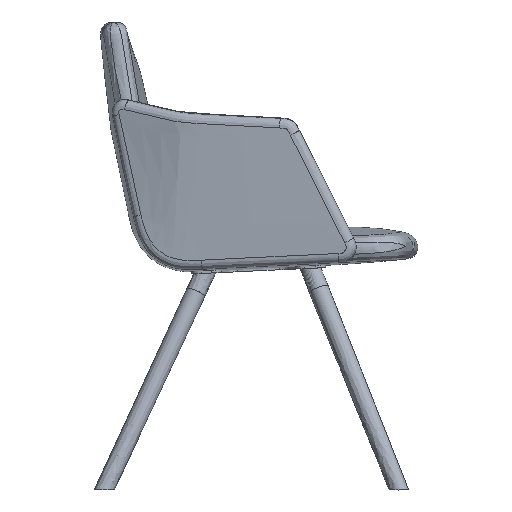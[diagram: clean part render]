
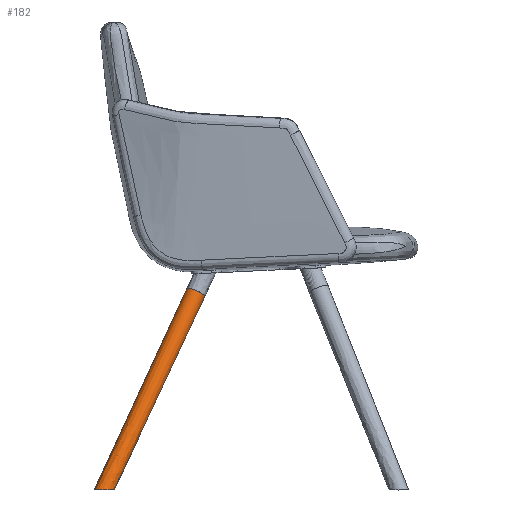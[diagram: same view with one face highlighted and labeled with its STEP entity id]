
A CAD part, left-side view. The second image highlights one B-rep face of the part: STEP entity #182.
In plain terms, the highlighted free-form (B-spline) face has degree [3, 2] with [4, 7] control points.
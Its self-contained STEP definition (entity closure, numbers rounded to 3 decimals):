
#182=ADVANCED_FACE('',(#311),#2028,.T.);
#311=FACE_OUTER_BOUND('',#440,.T.);
#440=EDGE_LOOP('',(#742,#743,#744,#745));
#742=ORIENTED_EDGE('',*,*,#1221,.F.);
#743=ORIENTED_EDGE('',*,*,#1223,.T.);
#744=ORIENTED_EDGE('',*,*,#1222,.T.);
#745=ORIENTED_EDGE('',*,*,#1224,.F.);
#1221=EDGE_CURVE('',#1852,#1853,#1452,.T.);
#1222=EDGE_CURVE('',#1851,#1854,#1765,.T.);
#1223=EDGE_CURVE('',#1852,#1851,#1766,.T.);
#1224=EDGE_CURVE('',#1853,#1854,#1767,.T.);
#1452=B_SPLINE_CURVE_WITH_KNOTS('',3,(#3090,#3091,#3092,#3093,#3094,#3095,
#3096,#3097,#3098,#3099,#3100,#3101,#3102,#3103,#3104,#3105,#3106,#3107,
#3108,#3109),.UNSPECIFIED.,.F.,.F.,(4,3,2,2,2,3,2,2,4),(0.,9.789,
16.811,23.816,30.782,37.748,50.996,
57.62,64.24),.UNSPECIFIED.);
#1765=(
BOUNDED_CURVE()
B_SPLINE_CURVE(2,(#3110,#3111,#3112,#3113,#3114,#3115,#3116),
 .UNSPECIFIED.,.F.,.F.)
B_SPLINE_CURVE_WITH_KNOTS((3,2,2,3),(0.,10.536,38.025,
65.514),.UNSPECIFIED.)
CURVE()
GEOMETRIC_REPRESENTATION_ITEM()
RATIONAL_B_SPLINE_CURVE((1.,0.956,1.,0.707,1.,0.707,
1.))
REPRESENTATION_ITEM('')
);
#1766=(
BOUNDED_CURVE()
B_SPLINE_CURVE(3,(#3117,#3118,#3119,#3120),.UNSPECIFIED.,.F.,.F.)
B_SPLINE_CURVE_WITH_KNOTS((4,4),(28.477,418.11),
 .UNSPECIFIED.)
CURVE()
GEOMETRIC_REPRESENTATION_ITEM()
RATIONAL_B_SPLINE_CURVE((1.,1.,1.,1.))
REPRESENTATION_ITEM('')
);
#1767=(
BOUNDED_CURVE()
B_SPLINE_CURVE(3,(#3121,#3122,#3123,#3124),.UNSPECIFIED.,.F.,.F.)
B_SPLINE_CURVE_WITH_KNOTS((4,4),(12.341,418.11),
 .UNSPECIFIED.)
CURVE()
GEOMETRIC_REPRESENTATION_ITEM()
RATIONAL_B_SPLINE_CURVE((1.,1.,1.,1.))
REPRESENTATION_ITEM('')
);
#1851=VERTEX_POINT('',#3086);
#1852=VERTEX_POINT('',#3087);
#1853=VERTEX_POINT('',#3088);
#1854=VERTEX_POINT('',#3089);
#2028=(
BOUNDED_SURFACE()
B_SPLINE_SURFACE(3,2,((#3058,#3059,#3060,#3061,#3062,#3063,#3064),(#3065,
#3066,#3067,#3068,#3069,#3070,#3071),(#3072,#3073,#3074,#3075,#3076,#3077,
#3078),(#3079,#3080,#3081,#3082,#3083,#3084,#3085)),.UNSPECIFIED.,.F.,.F.,
 .F.)
B_SPLINE_SURFACE_WITH_KNOTS((4,4),(3,2,2,3),(0.,418.11),(0.,10.536,
38.025,65.514),.UNSPECIFIED.)
GEOMETRIC_REPRESENTATION_ITEM()
RATIONAL_B_SPLINE_SURFACE(((0.862,0.888,1.,0.707,
1.,0.707,1.),(0.862,0.888,1.,0.707,
1.,0.707,1.),(0.862,0.888,1.,0.707,
1.,0.707,1.),(0.862,0.888,1.,0.707,
1.,0.707,1.)))
REPRESENTATION_ITEM('')
SURFACE()
);
#3058=CARTESIAN_POINT('',(-220.842,257.038,-25.099));
#3059=CARTESIAN_POINT('',(-224.783,254.17,-25.413));
#3060=CARTESIAN_POINT('',(-229.538,253.694,-24.406));
#3061=CARTESIAN_POINT('',(-245.117,252.135,-21.106));
#3062=CARTESIAN_POINT('',(-245.14,266.644,-14.361));
#3063=CARTESIAN_POINT('',(-245.163,281.153,-7.616));
#3064=CARTESIAN_POINT('',(-229.585,282.712,-10.916));
#3065=CARTESIAN_POINT('',(-188.782,199.529,97.739));
#3066=CARTESIAN_POINT('',(-192.846,196.57,97.415));
#3067=CARTESIAN_POINT('',(-197.75,196.08,98.454));
#3068=CARTESIAN_POINT('',(-213.815,194.472,101.856));
#3069=CARTESIAN_POINT('',(-213.839,209.435,108.812));
#3070=CARTESIAN_POINT('',(-213.863,224.397,115.767));
#3071=CARTESIAN_POINT('',(-197.798,226.004,112.365));
#3072=CARTESIAN_POINT('',(-156.722,142.019,220.576));
#3073=CARTESIAN_POINT('',(-160.909,138.971,220.242));
#3074=CARTESIAN_POINT('',(-165.962,138.466,221.313));
#3075=CARTESIAN_POINT('',(-182.514,136.809,224.819));
#3076=CARTESIAN_POINT('',(-182.539,152.225,231.985));
#3077=CARTESIAN_POINT('',(-182.563,167.641,239.151));
#3078=CARTESIAN_POINT('',(-166.011,169.297,235.645));
#3079=CARTESIAN_POINT('',(-124.662,84.509,343.414));
#3080=CARTESIAN_POINT('',(-128.973,81.372,343.07));
#3081=CARTESIAN_POINT('',(-134.174,80.851,344.172));
#3082=CARTESIAN_POINT('',(-151.213,79.147,347.781));
#3083=CARTESIAN_POINT('',(-151.238,95.016,355.158));
#3084=CARTESIAN_POINT('',(-151.263,110.885,362.535));
#3085=CARTESIAN_POINT('',(-134.225,112.59,358.926));
#3086=CARTESIAN_POINT('',(-124.662,84.509,343.414));
#3087=CARTESIAN_POINT('',(-214.291,245.288,0.));
#3088=CARTESIAN_POINT('',(-226.77,277.69,0.));
#3089=CARTESIAN_POINT('',(-134.225,112.59,358.926));
#3090=CARTESIAN_POINT('',(-214.291,245.288,0.));
#3091=CARTESIAN_POINT('',(-216.856,243.283,0.));
#3092=CARTESIAN_POINT('',(-219.978,242.251,0.));
#3093=CARTESIAN_POINT('',(-223.224,242.249,0.));
#3094=CARTESIAN_POINT('',(-225.561,242.247,0.));
#3095=CARTESIAN_POINT('',(-227.863,242.778,0.));
#3096=CARTESIAN_POINT('',(-232.114,244.684,0.));
#3097=CARTESIAN_POINT('',(-234.037,246.044,0.));
#3098=CARTESIAN_POINT('',(-237.303,249.331,0.));
#3099=CARTESIAN_POINT('',(-238.644,251.249,0.));
#3100=CARTESIAN_POINT('',(-240.625,255.421,0.));
#3101=CARTESIAN_POINT('',(-241.264,257.674,0.));
#3102=CARTESIAN_POINT('',(-241.49,259.974,0.));
#3103=CARTESIAN_POINT('',(-241.915,264.287,0.));
#3104=CARTESIAN_POINT('',(-240.871,268.721,0.));
#3105=CARTESIAN_POINT('',(-236.796,273.903,0.));
#3106=CARTESIAN_POINT('',(-235.082,275.297,0.));
#3107=CARTESIAN_POINT('',(-231.123,277.209,0.));
#3108=CARTESIAN_POINT('',(-228.965,277.685,0.));
#3109=CARTESIAN_POINT('',(-226.77,277.69,0.));
#3110=CARTESIAN_POINT('',(-124.662,84.509,343.414));
#3111=CARTESIAN_POINT('',(-128.973,81.372,343.07));
#3112=CARTESIAN_POINT('',(-134.174,80.851,344.172));
#3113=CARTESIAN_POINT('',(-151.213,79.147,347.781));
#3114=CARTESIAN_POINT('',(-151.238,95.016,355.158));
#3115=CARTESIAN_POINT('',(-151.263,110.885,362.535));
#3116=CARTESIAN_POINT('',(-134.225,112.59,358.926));
#3117=CARTESIAN_POINT('',(-214.291,245.288,0.));
#3118=CARTESIAN_POINT('',(-184.415,191.695,114.471));
#3119=CARTESIAN_POINT('',(-154.538,138.102,228.943));
#3120=CARTESIAN_POINT('',(-124.662,84.509,343.414));
#3121=CARTESIAN_POINT('',(-226.77,277.69,0.));
#3122=CARTESIAN_POINT('',(-195.922,222.657,119.642));
#3123=CARTESIAN_POINT('',(-165.073,167.623,239.284));
#3124=CARTESIAN_POINT('',(-134.225,112.59,358.926));
